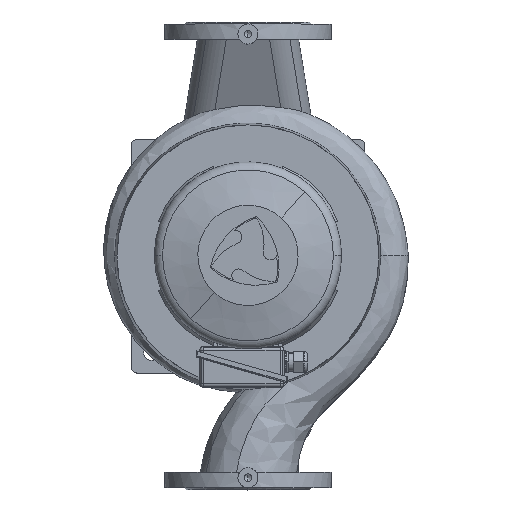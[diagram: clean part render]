
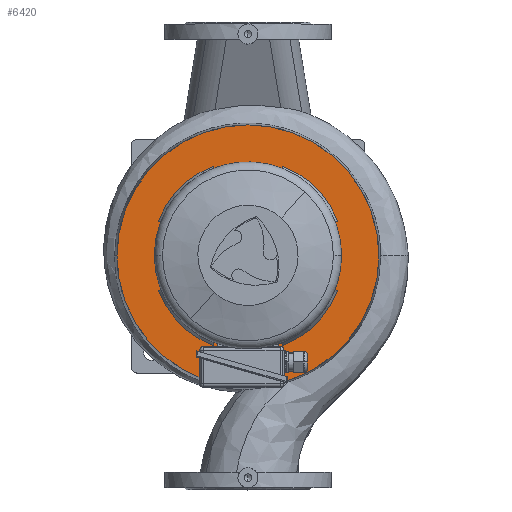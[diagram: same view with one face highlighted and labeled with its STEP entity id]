
A CAD part, top view. The second image highlights one B-rep face of the part: STEP entity #6420.
In plain terms, the highlighted planar face has unit normal (0, 0, 1) as drawn and (1, 0, 0) by its records, which use the part's own axes.
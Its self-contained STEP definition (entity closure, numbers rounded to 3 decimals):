
#6420=ADVANCED_FACE('',(#12417,#12418),#12419,.T.);
#6444=EDGE_CURVE('',#12458,#12459,#12460,.T.);
#6468=EDGE_CURVE('',#12502,#12503,#12504,.T.);
#6476=EDGE_CURVE('',#12512,#12515,#12516,.T.);
#6484=EDGE_CURVE('',#12524,#12527,#12528,.T.);
#6490=EDGE_CURVE('',#12531,#12503,#12536,.T.);
#6492=EDGE_CURVE('',#12538,#12515,#12539,.T.);
#6500=EDGE_CURVE('',#12550,#12546,#12551,.T.);
#6508=EDGE_CURVE('',#12561,#12557,#12562,.T.);
#6516=EDGE_CURVE('',#12568,#12571,#12572,.T.);
#6526=EDGE_CURVE('',#12582,#12512,#12585,.T.);
#6532=EDGE_CURVE('',#12590,#12524,#12593,.T.);
#6540=EDGE_CURVE('',#12601,#12596,#12604,.T.);
#6542=EDGE_CURVE('',#12527,#12546,#12606,.T.);
#6546=EDGE_CURVE('',#12596,#12557,#12610,.T.);
#6550=EDGE_CURVE('',#12571,#12502,#12614,.T.);
#6554=EDGE_CURVE('',#12538,#12590,#12618,.T.);
#6558=EDGE_CURVE('',#12550,#12601,#12622,.T.);
#6560=EDGE_CURVE('',#12531,#12582,#12624,.T.);
#6564=EDGE_CURVE('',#12459,#12458,#12628,.T.);
#6566=EDGE_CURVE('',#12561,#12568,#12630,.T.);
#12417=FACE_OUTER_BOUND('',#25368,.T.);
#12418=FACE_BOUND('',#25369,.T.);
#12419=PLANE('',#25370);
#12458=VERTEX_POINT('',#25411);
#12459=VERTEX_POINT('',#25412);
#12460=CIRCLE('',#25413,196.0);
#12502=VERTEX_POINT('',#25467);
#12503=VERTEX_POINT('',#25468);
#12504=CIRCLE('',#25469,132.799);
#12512=VERTEX_POINT('',#25489);
#12515=VERTEX_POINT('',#25502);
#12516=CIRCLE('',#25503,132.799);
#12524=VERTEX_POINT('',#25523);
#12527=VERTEX_POINT('',#25536);
#12528=CIRCLE('',#25537,132.799);
#12531=VERTEX_POINT('',#25541);
#12536=LINE('',#25558,#25559);
#12538=VERTEX_POINT('',#25562);
#12539=LINE('',#25563,#25564);
#12546=VERTEX_POINT('',#25584);
#12550=VERTEX_POINT('',#25598);
#12551=LINE('',#25599,#25600);
#12557=VERTEX_POINT('',#25619);
#12561=VERTEX_POINT('',#25633);
#12562=LINE('',#25634,#25635);
#12568=VERTEX_POINT('',#25654);
#12571=VERTEX_POINT('',#25667);
#12572=LINE('',#25668,#25669);
#12582=VERTEX_POINT('',#25694);
#12585=LINE('',#25707,#25708);
#12590=VERTEX_POINT('',#25716);
#12593=LINE('',#25729,#25730);
#12596=VERTEX_POINT('',#25734);
#12601=VERTEX_POINT('',#25751);
#12604=LINE('',#25764,#25765);
#12606=CIRCLE('',#25768,132.799);
#12610=CIRCLE('',#25774,132.799);
#12614=CIRCLE('',#25780,132.799);
#12618=CIRCLE('',#25786,144.0);
#12622=CIRCLE('',#25792,144.0);
#12624=CIRCLE('',#25795,144.0);
#12628=CIRCLE('',#25801,196.0);
#12630=CIRCLE('',#25804,144.0);
#25368=EDGE_LOOP('',(#34026,#34027));
#25369=EDGE_LOOP('',(#34028,#34029,#34030,#34031,#34032,#34033,#34034,#34035,#34036,#34037,#34038,#34039,#34040,#34041,#34042,#34043,#34044,#34045));
#25370=AXIS2_PLACEMENT_3D('',#34046,#34047,#34048);
#25411=CARTESIAN_POINT('',(20.0,196.0,0.0));
#25412=CARTESIAN_POINT('',(20.0,-196.0,0.));
#25413=AXIS2_PLACEMENT_3D('',#34148,#34149,#34150);
#25467=CARTESIAN_POINT('',(20.0,-132.799,0.));
#25468=CARTESIAN_POINT('',(20.0,-123.51,-48.794));
#25469=AXIS2_PLACEMENT_3D('',#34184,#34185,#34186);
#25489=CARTESIAN_POINT('',(20.0,-48.794,-123.51));
#25502=CARTESIAN_POINT('',(20.0,48.794,-123.51));
#25503=AXIS2_PLACEMENT_3D('',#34190,#34191,#34192);
#25523=CARTESIAN_POINT('',(20.0,123.51,-48.794));
#25536=CARTESIAN_POINT('',(20.0,132.799,0.));
#25537=AXIS2_PLACEMENT_3D('',#34196,#34197,#34198);
#25541=CARTESIAN_POINT('',(20.0,-134.395,-51.711));
#25558=CARTESIAN_POINT('',(20.0,-134.395,-51.711));
#25559=VECTOR('',#34200,1.0);
#25562=CARTESIAN_POINT('',(20.0,51.711,-134.395));
#25563=CARTESIAN_POINT('',(20.0,51.711,-134.395));
#25564=VECTOR('',#34201,1.0);
#25584=CARTESIAN_POINT('',(20.0,123.51,48.794));
#25598=CARTESIAN_POINT('',(20.0,134.395,51.711));
#25599=CARTESIAN_POINT('',(20.0,134.395,51.711));
#25600=VECTOR('',#34203,1.0);
#25619=CARTESIAN_POINT('',(20.0,-48.794,123.51));
#25633=CARTESIAN_POINT('',(20.0,-51.711,134.395));
#25634=CARTESIAN_POINT('',(20.0,-51.711,134.395));
#25635=VECTOR('',#34205,1.0);
#25654=CARTESIAN_POINT('',(20.0,-134.395,51.711));
#25667=CARTESIAN_POINT('',(20.0,-123.51,48.794));
#25668=CARTESIAN_POINT('',(20.0,-134.395,51.711));
#25669=VECTOR('',#34207,1.0);
#25694=CARTESIAN_POINT('',(20.0,-51.711,-134.395));
#25707=CARTESIAN_POINT('',(20.0,-51.711,-134.395));
#25708=VECTOR('',#34210,1.0);
#25716=CARTESIAN_POINT('',(20.0,134.395,-51.711));
#25729=CARTESIAN_POINT('',(20.0,134.395,-51.711));
#25730=VECTOR('',#34212,1.0);
#25734=CARTESIAN_POINT('',(20.0,48.794,123.51));
#25751=CARTESIAN_POINT('',(20.0,51.711,134.395));
#25764=CARTESIAN_POINT('',(20.0,51.711,134.395));
#25765=VECTOR('',#34214,1.0);
#25768=AXIS2_PLACEMENT_3D('',#34215,#34216,#34217);
#25774=AXIS2_PLACEMENT_3D('',#34221,#34222,#34223);
#25780=AXIS2_PLACEMENT_3D('',#34227,#34228,#34229);
#25786=AXIS2_PLACEMENT_3D('',#34233,#34234,#34235);
#25792=AXIS2_PLACEMENT_3D('',#34239,#34240,#34241);
#25795=AXIS2_PLACEMENT_3D('',#34242,#34243,#34244);
#25801=AXIS2_PLACEMENT_3D('',#34248,#34249,#34250);
#25804=AXIS2_PLACEMENT_3D('',#34251,#34252,#34253);
#34026=ORIENTED_EDGE('',*,*,#6444,.T.);
#34027=ORIENTED_EDGE('',*,*,#6564,.T.);
#34028=ORIENTED_EDGE('',*,*,#6566,.F.);
#34029=ORIENTED_EDGE('',*,*,#6508,.T.);
#34030=ORIENTED_EDGE('',*,*,#6546,.F.);
#34031=ORIENTED_EDGE('',*,*,#6540,.F.);
#34032=ORIENTED_EDGE('',*,*,#6558,.F.);
#34033=ORIENTED_EDGE('',*,*,#6500,.T.);
#34034=ORIENTED_EDGE('',*,*,#6542,.F.);
#34035=ORIENTED_EDGE('',*,*,#6484,.F.);
#34036=ORIENTED_EDGE('',*,*,#6532,.F.);
#34037=ORIENTED_EDGE('',*,*,#6554,.F.);
#34038=ORIENTED_EDGE('',*,*,#6492,.T.);
#34039=ORIENTED_EDGE('',*,*,#6476,.F.);
#34040=ORIENTED_EDGE('',*,*,#6526,.F.);
#34041=ORIENTED_EDGE('',*,*,#6560,.F.);
#34042=ORIENTED_EDGE('',*,*,#6490,.T.);
#34043=ORIENTED_EDGE('',*,*,#6468,.F.);
#34044=ORIENTED_EDGE('',*,*,#6550,.F.);
#34045=ORIENTED_EDGE('',*,*,#6516,.F.);
#34046=CARTESIAN_POINT('',(20.0,170.0,0.0));
#34047=DIRECTION('',(1.0,0.0,0.0));
#34048=DIRECTION('',(0.0,0.0,-1.0));
#34148=CARTESIAN_POINT('',(20.0,0.0,0.0));
#34149=DIRECTION('',(1.0,0.0,0.0));
#34150=DIRECTION('',(0.0,1.0,0.0));
#34184=CARTESIAN_POINT('',(20.0,0.0,0.0));
#34185=DIRECTION('',(1.0,0.0,0.0));
#34186=DIRECTION('',(0.0,1.0,0.0));
#34190=CARTESIAN_POINT('',(20.0,0.0,0.0));
#34191=DIRECTION('',(1.0,0.0,0.0));
#34192=DIRECTION('',(0.0,1.0,0.0));
#34196=CARTESIAN_POINT('',(20.0,0.0,0.0));
#34197=DIRECTION('',(1.0,0.0,0.0));
#34198=DIRECTION('',(0.0,1.0,0.0));
#34200=DIRECTION('',(0.,0.966,0.259));
#34201=DIRECTION('',(0.,-0.259,0.966));
#34203=DIRECTION('',(0.,-0.966,-0.259));
#34205=DIRECTION('',(0.,0.259,-0.966));
#34207=DIRECTION('',(0.,0.966,-0.259));
#34210=DIRECTION('',(0.,0.259,0.966));
#34212=DIRECTION('',(0.,-0.966,0.259));
#34214=DIRECTION('',(0.,-0.259,-0.966));
#34215=CARTESIAN_POINT('',(20.0,0.0,0.0));
#34216=DIRECTION('',(1.0,0.0,0.0));
#34217=DIRECTION('',(0.0,1.0,0.0));
#34221=CARTESIAN_POINT('',(20.0,0.0,0.0));
#34222=DIRECTION('',(1.0,0.0,0.0));
#34223=DIRECTION('',(0.0,1.0,0.0));
#34227=CARTESIAN_POINT('',(20.0,0.0,0.0));
#34228=DIRECTION('',(1.0,0.0,0.0));
#34229=DIRECTION('',(0.0,1.0,0.0));
#34233=CARTESIAN_POINT('',(20.0,0.0,0.0));
#34234=DIRECTION('',(1.0,0.0,0.0));
#34235=DIRECTION('',(0.0,1.0,0.0));
#34239=CARTESIAN_POINT('',(20.0,0.0,0.0));
#34240=DIRECTION('',(1.0,0.0,0.0));
#34241=DIRECTION('',(0.0,1.0,0.0));
#34242=CARTESIAN_POINT('',(20.0,0.0,0.0));
#34243=DIRECTION('',(1.0,0.0,0.0));
#34244=DIRECTION('',(0.0,1.0,0.0));
#34248=CARTESIAN_POINT('',(20.0,0.0,0.0));
#34249=DIRECTION('',(1.0,0.0,0.0));
#34250=DIRECTION('',(0.0,1.0,0.0));
#34251=CARTESIAN_POINT('',(20.0,0.0,0.0));
#34252=DIRECTION('',(1.0,0.0,0.0));
#34253=DIRECTION('',(0.0,1.0,0.0));
